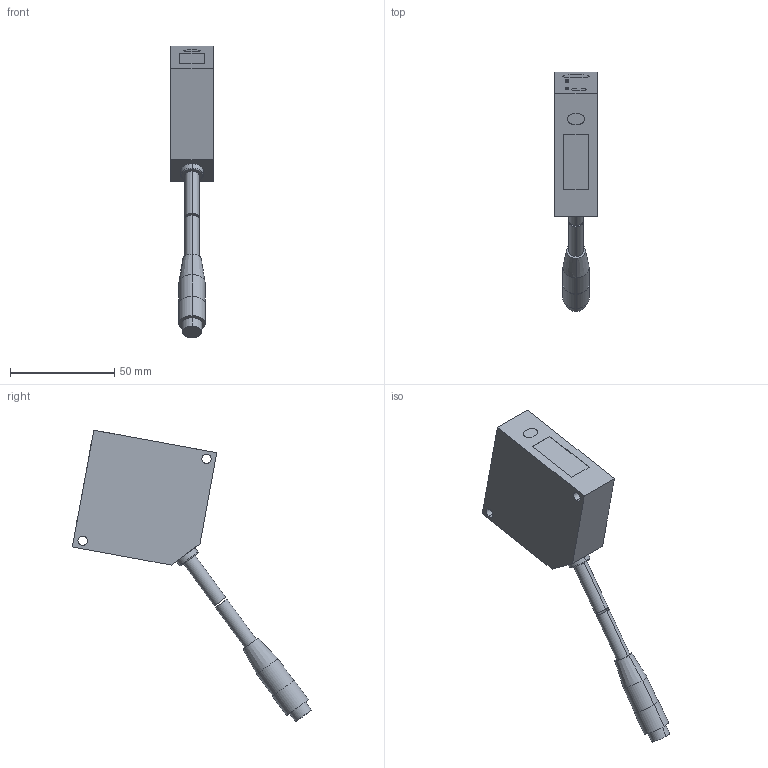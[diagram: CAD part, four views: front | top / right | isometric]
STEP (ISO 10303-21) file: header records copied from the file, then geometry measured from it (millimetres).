
FILE_DESCRIPTION (( 'STEP AP203' ), '1' );
FILE_NAME ('hl-g105a-rs-j.STEP', '2013-10-04T07:43:09', ( ' ' ), ( ' ' ), 'SwSTEP 2.0', 'SolidWorks 2010', '' );
FILE_SCHEMA (( 'CONFIG_CONTROL_DESIGN' ));
Length unit declared in the file: millimetre
Products named in the file (1): hl-g105a-rs-j
Bounding box: 20.4 x 114.8 x 139.99 mm (x, y, z)
Volume: 74364.1 mm3; surface area: 14806.8 mm2
Topology: 2 solids, 2 shells, 83 faces, 188 edges, 124 vertices
Faces by surface type: plane 56, cylinder 23, torus 2, cone 2
Entity records: 2405 total; most frequent: DIRECTION 408, CARTESIAN_POINT 396, ORIENTED_EDGE 376, EDGE_CURVE 188, AXIS2_PLACEMENT_3D 136, VECTOR 136, LINE 136, VERTEX_POINT 124
